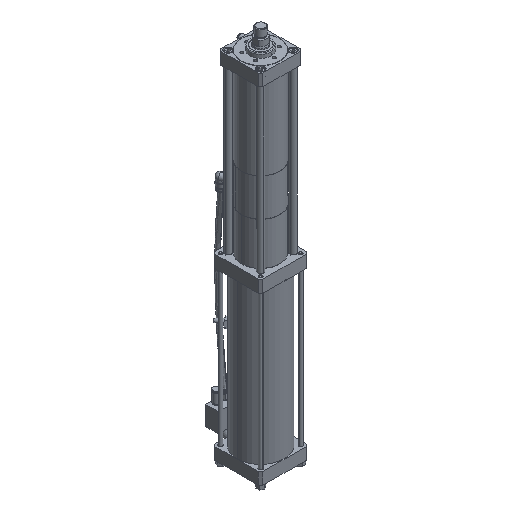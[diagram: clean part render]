
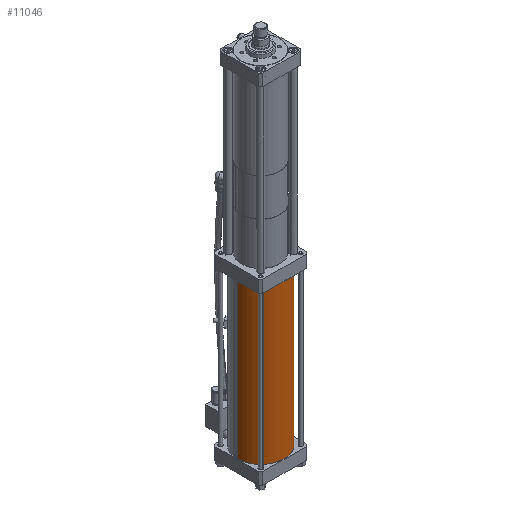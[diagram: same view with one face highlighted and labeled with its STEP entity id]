
A CAD part, isometric view. The second image highlights one B-rep face of the part: STEP entity #11046.
In plain terms, the highlighted cylindrical face has radius 55 mm (diameter 110 mm), a partial arc.
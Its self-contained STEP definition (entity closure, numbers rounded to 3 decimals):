
#147 = ORIENTED_EDGE ( 'NONE', *, *, #8461, .F. ) ;
#295 = EDGE_LOOP ( 'NONE', ( #14249, #147, #5558, #11424 ) ) ;
#837 = CARTESIAN_POINT ( 'NONE',  ( -55., 0., 180.5 ) ) ;
#1634 = AXIS2_PLACEMENT_3D ( 'NONE', #9857, #11504, #14047 ) ;
#1878 = EDGE_CURVE ( 'NONE', #5268, #2575, #5137, .T. ) ;
#2228 = LINE ( 'NONE', #837, #3888 ) ;
#2397 = CYLINDRICAL_SURFACE ( 'NONE', #10966, 55. ) ;
#2575 = VERTEX_POINT ( 'NONE', #4260 ) ;
#2606 = DIRECTION ( 'NONE',  ( 1., 0., 0. ) ) ;
#2757 = FACE_OUTER_BOUND ( 'NONE', #295, .T. ) ;
#2817 = CARTESIAN_POINT ( 'NONE',  ( -55., 0., -180.5 ) ) ;
#3774 = VECTOR ( 'NONE', #16003, 1000. ) ;
#3888 = VECTOR ( 'NONE', #5065, 1000. ) ;
#4260 = CARTESIAN_POINT ( 'NONE',  ( 55., 0., -180.5 ) ) ;
#4296 = VERTEX_POINT ( 'NONE', #13365 ) ;
#5030 = AXIS2_PLACEMENT_3D ( 'NONE', #10023, #12409, #2606 ) ;
#5044 = CIRCLE ( 'NONE', #5030, 55. ) ;
#5065 = DIRECTION ( 'NONE',  ( 0., 0., -1. ) ) ;
#5137 = LINE ( 'NONE', #17734, #3774 ) ;
#5168 = CIRCLE ( 'NONE', #1634, 55. ) ;
#5243 = DIRECTION ( 'NONE',  ( 0., 0., -1. ) ) ;
#5268 = VERTEX_POINT ( 'NONE', #17658 ) ;
#5558 = ORIENTED_EDGE ( 'NONE', *, *, #16294, .T. ) ;
#6971 = CARTESIAN_POINT ( 'NONE',  ( 0., 0., 180.5 ) ) ;
#7994 = DIRECTION ( 'NONE',  ( -1., 0., 0. ) ) ;
#8461 = EDGE_CURVE ( 'NONE', #4296, #5268, #5044, .T. ) ;
#9197 = VERTEX_POINT ( 'NONE', #2817 ) ;
#9857 = CARTESIAN_POINT ( 'NONE',  ( 0., 0., -180.5 ) ) ;
#10023 = CARTESIAN_POINT ( 'NONE',  ( 0., 0., 180.5 ) ) ;
#10966 = AXIS2_PLACEMENT_3D ( 'NONE', #6971, #5243, #7994 ) ;
#11046 = ADVANCED_FACE ( 'NONE', ( #2757 ), #2397, .T. ) ;
#11424 = ORIENTED_EDGE ( 'NONE', *, *, #12968, .T. ) ;
#11504 = DIRECTION ( 'NONE',  ( 0., 0., 1. ) ) ;
#12409 = DIRECTION ( 'NONE',  ( 0., 0., 1. ) ) ;
#12968 = EDGE_CURVE ( 'NONE', #9197, #2575, #5168, .T. ) ;
#13365 = CARTESIAN_POINT ( 'NONE',  ( -55., 0., 180.5 ) ) ;
#14047 = DIRECTION ( 'NONE',  ( 1., 0., 0. ) ) ;
#14249 = ORIENTED_EDGE ( 'NONE', *, *, #1878, .F. ) ;
#16003 = DIRECTION ( 'NONE',  ( 0., 0., -1. ) ) ;
#16294 = EDGE_CURVE ( 'NONE', #4296, #9197, #2228, .T. ) ;
#17658 = CARTESIAN_POINT ( 'NONE',  ( 55., 0., 180.5 ) ) ;
#17734 = CARTESIAN_POINT ( 'NONE',  ( 55., 0., 180.5 ) ) ;
